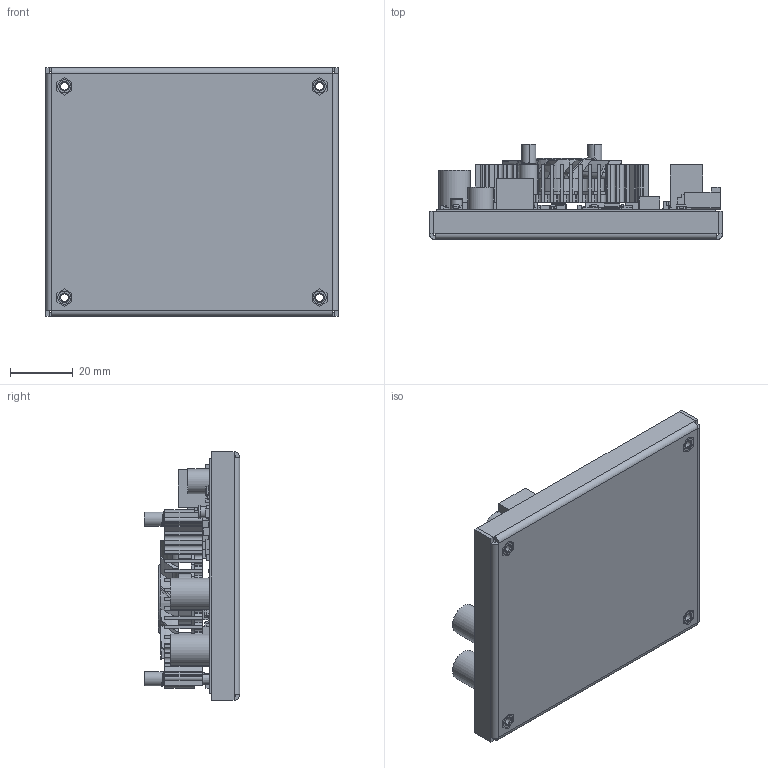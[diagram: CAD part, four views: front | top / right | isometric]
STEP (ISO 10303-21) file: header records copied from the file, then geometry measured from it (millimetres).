
FILE_DESCRIPTION(/* description */ ('Alibre Inc.'),/* implementation_level */ '2;1');
FILE_NAME(/* name */ 'export0',/* time_stamp */ '2018-08-09T12:21:18-06:00',/* author */ (''),/* organization */ (''),/* preprocessor_version */ 'ST-DEVELOPER v17',/* originating_system */ 'Alibre',/* authorisation */ '');
FILE_SCHEMA (('CONFIG_CONTROL_DESIGN'));
Length unit declared in the file: centimetre
Products named in the file (192): ID_1; ID_2; ID_3; ID_4; ID_5; ID_6; ID_7; ID_8; ID_9; ID_10; ID_11; ID_12; ID_13; ID_14; ID_15; ID_16; ID_17; ID_18; ID_19; ID_20; ID_21; ID_22; ID_23; ID_24; ID_25; ID_26; ID_27; ID_28; ID_29; ID_30; ID_31; ID_32; ID_33; ID_34; ID_35; ID_36; ID_37; ID_38; ID_39; ID_40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
Bounding box: 93.26 x 30.37 x 79.29 mm (x, y, z)
Volume: 46525.4 mm3; surface area: 65781.9 mm2
Topology: 198 solids, 198 shells, 3010 faces, 7462 edges, 4881 vertices
Faces by surface type: plane 2213, cylinder 688, bspline 81, cone 26, torus 2
Full cylindrical faces by diameter (mm): 0.711 x1, 0.813 x2, 0.965 x3, 1 x6, 1.067 x6, 3.175 x6, 3.556 x1, 4.064 x2, 4.22 x4, 8 x1, 10 x2
Entity records: 77705 total; most frequent: CARTESIAN_POINT 15126, ORIENTED_EDGE 8460, DIRECTION 7979, EDGE_CURVE 4230, AXIS2_PLACEMENT_3D 3015, VECTOR 2970, LINE 2970, VERTEX_POINT 2777
